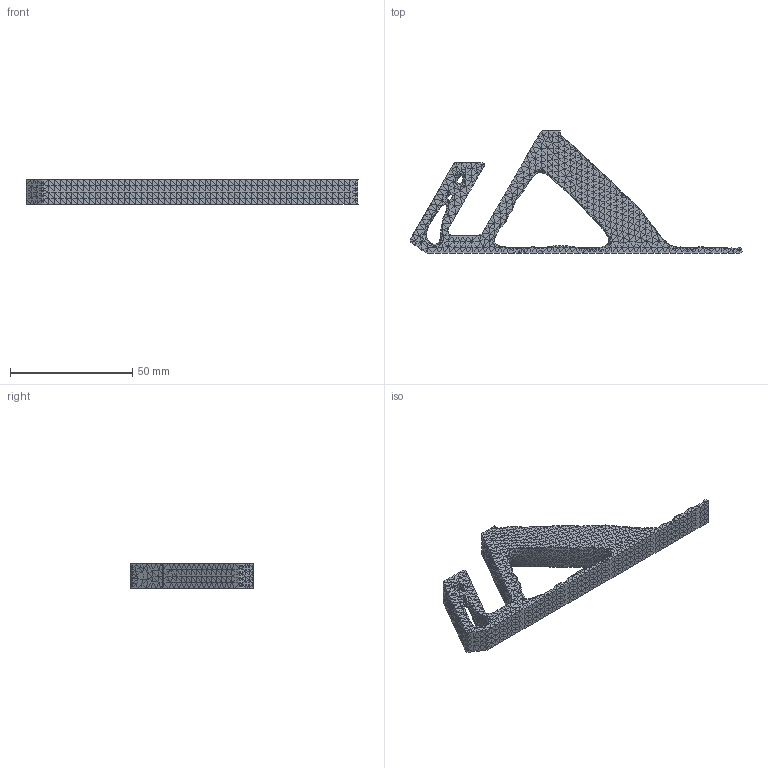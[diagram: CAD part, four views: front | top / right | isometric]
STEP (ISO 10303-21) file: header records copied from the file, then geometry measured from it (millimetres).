
FILE_DESCRIPTION (( 'STEP AP214' ), '1' );
FILE_NAME ('laptop_stand_topology_optimized.STEP', '2020-12-10T22:41:21', ( '' ), ( '' ), 'SwSTEP 2.0', 'SolidWorks 2018', '' );
FILE_SCHEMA (( 'AUTOMOTIVE_DESIGN' ));
Length unit declared in the file: millimetre
Products named in the file (1): laptop_stand_topology_optimized
Bounding box: 135.9 x 50 x 10 mm (x, y, z)
Volume: 18396.5 mm3; surface area: 9372.7 mm2
Topology: 1 solids, 1 shells, 8022 faces, 12045 edges, 4017 vertices
Faces by surface type: plane 8022
Entity records: 156569 total; most frequent: DIRECTION 28089, CARTESIAN_POINT 24091, ORIENTED_EDGE 24090, EDGE_CURVE 12045, LINE 12043, VECTOR 12043, AXIS2_PLACEMENT_3D 8023, PLANE 8022
